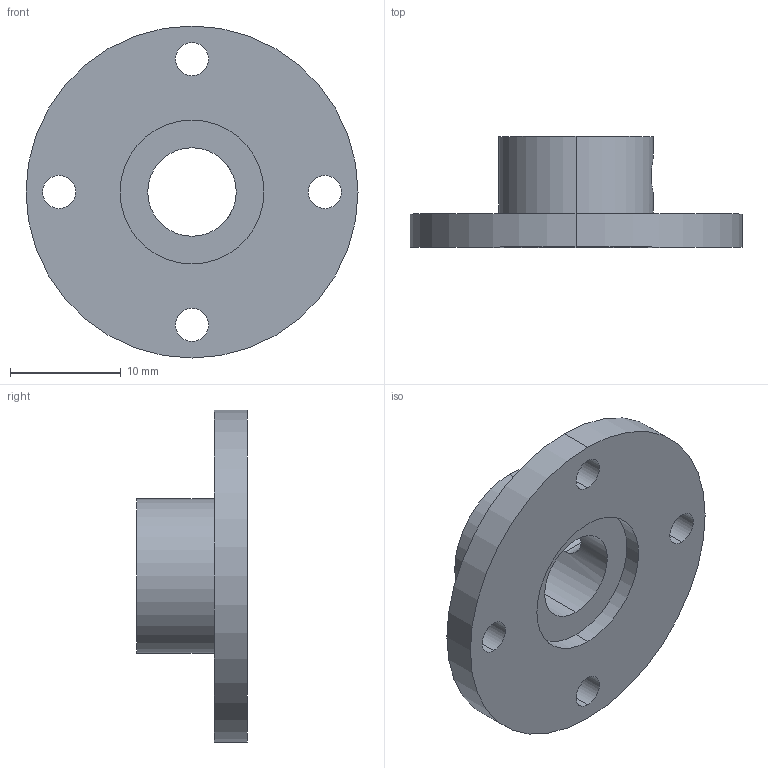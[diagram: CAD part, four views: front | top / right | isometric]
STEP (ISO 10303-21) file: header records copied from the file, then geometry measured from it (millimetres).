
FILE_DESCRIPTION (( 'STEP AP214' ), '1' );
FILE_NAME ('粣攫.STEP', '2024-11-14T11:36:29', ( '' ), ( '' ), 'SwSTEP 2.0', 'SolidWorks 2021', '' );
FILE_SCHEMA (( 'AUTOMOTIVE_DESIGN' ));
Length unit declared in the file: millimetre
Products named in the file (1): 粣攫
Bounding box: 30 x 10 x 30 mm (x, y, z)
Volume: 2447.4 mm3; surface area: 2236.4 mm2
Topology: 1 solids, 1 shells, 24 faces, 58 edges, 38 vertices
Faces by surface type: cylinder 18, plane 4, cone 2
Entity records: 876 total; most frequent: CARTESIAN_POINT 227, DIRECTION 138, ORIENTED_EDGE 116, AXIS2_PLACEMENT_3D 59, EDGE_CURVE 58, EDGE_LOOP 38, VERTEX_POINT 38, CIRCLE 34
